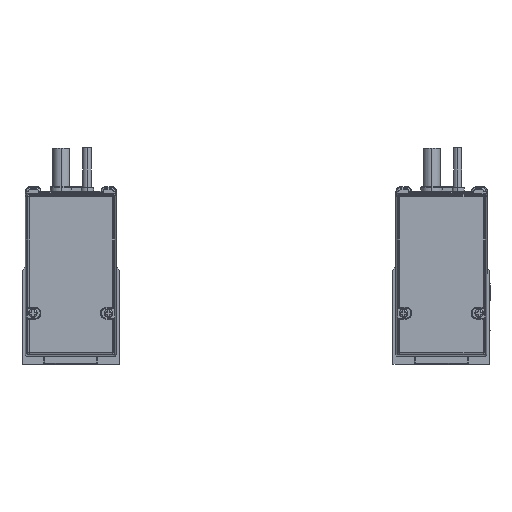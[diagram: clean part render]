
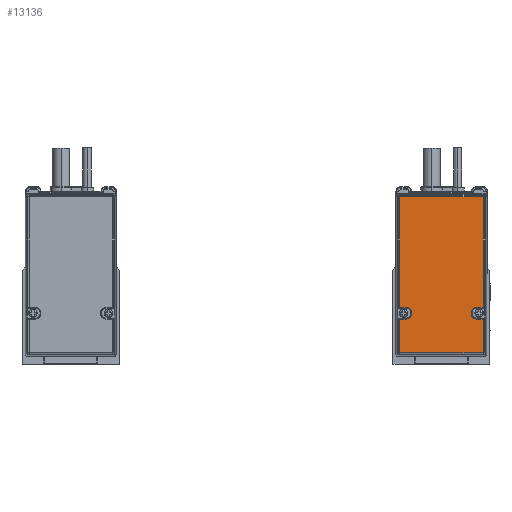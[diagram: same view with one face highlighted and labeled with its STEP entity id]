
A CAD part, left-side view. The second image highlights one B-rep face of the part: STEP entity #13136.
In plain terms, the highlighted planar face has unit normal (-1, 0, 0).
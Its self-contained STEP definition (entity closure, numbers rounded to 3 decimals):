
#13136=ADVANCED_FACE('',(#26065),#26066,.F.);
#26065=FACE_OUTER_BOUND('',#48995,.T.);
#26066=PLANE('',#48996);
#48995=EDGE_LOOP('',(#86801,#86802,#86803,#86804,#86805,#86806,#86807,#86808,#86809,#86810,#86811,#86812,#86813,#86814,#86815,#86816));
#48996=AXIS2_PLACEMENT_3D('',#86817,#86818,#86819);
#86801=ORIENTED_EDGE('',*,*,#100920,.F.);
#86802=ORIENTED_EDGE('',*,*,#90613,.F.);
#86803=ORIENTED_EDGE('',*,*,#99886,.F.);
#86804=ORIENTED_EDGE('',*,*,#103408,.F.);
#86805=ORIENTED_EDGE('',*,*,#95140,.F.);
#86806=ORIENTED_EDGE('',*,*,#95081,.F.);
#86807=ORIENTED_EDGE('',*,*,#103409,.F.);
#86808=ORIENTED_EDGE('',*,*,#101356,.F.);
#86809=ORIENTED_EDGE('',*,*,#102907,.F.);
#86810=ORIENTED_EDGE('',*,*,#101424,.F.);
#86811=ORIENTED_EDGE('',*,*,#102277,.F.);
#86812=ORIENTED_EDGE('',*,*,#103410,.F.);
#86813=ORIENTED_EDGE('',*,*,#97551,.F.);
#86814=ORIENTED_EDGE('',*,*,#91702,.F.);
#86815=ORIENTED_EDGE('',*,*,#89830,.F.);
#86816=ORIENTED_EDGE('',*,*,#100263,.F.);
#86817=CARTESIAN_POINT('',(1511.3,11.59,536.038));
#86818=DIRECTION('',(1.0,0.0,0.0));
#86819=DIRECTION('',(0.0,1.0,0.));
#89830=EDGE_CURVE('',#106474,#106476,#106477,.T.);
#90613=EDGE_CURVE('',#107855,#107857,#107858,.T.);
#91702=EDGE_CURVE('',#106476,#109691,#109692,.T.);
#95081=EDGE_CURVE('',#115128,#115130,#115131,.T.);
#95140=EDGE_CURVE('',#115130,#108792,#115217,.T.);
#97551=EDGE_CURVE('',#109691,#104744,#118787,.T.);
#99886=EDGE_CURVE('',#121873,#107855,#121875,.T.);
#100263=EDGE_CURVE('',#122335,#106474,#122337,.T.);
#100920=EDGE_CURVE('',#107857,#122335,#123135,.T.);
#101356=EDGE_CURVE('',#123657,#123659,#123660,.T.);
#101424=EDGE_CURVE('',#121503,#113927,#123734,.T.);
#102277=EDGE_CURVE('',#104021,#121503,#124677,.T.);
#102907=EDGE_CURVE('',#113927,#123657,#125337,.T.);
#103408=EDGE_CURVE('',#108792,#121873,#125848,.T.);
#103409=EDGE_CURVE('',#123659,#115128,#125849,.T.);
#103410=EDGE_CURVE('',#104744,#104021,#125850,.T.);
#104021=VERTEX_POINT('',#126580);
#104744=VERTEX_POINT('',#127620);
#106474=VERTEX_POINT('',#130286);
#106476=VERTEX_POINT('',#130288);
#106477=LINE('',#130289,#130290);
#107855=VERTEX_POINT('',#132213);
#107857=VERTEX_POINT('',#132215);
#107858=LINE('',#132216,#132217);
#108792=VERTEX_POINT('',#133508);
#109691=VERTEX_POINT('',#134672);
#109692=CIRCLE('',#134673,2.5);
#113927=VERTEX_POINT('',#140836);
#115128=VERTEX_POINT('',#142531);
#115130=VERTEX_POINT('',#142533);
#115131=CIRCLE('',#142534,2.5);
#115217=LINE('',#142644,#142645);
#118787=LINE('',#147941,#147942);
#121503=VERTEX_POINT('',#152012);
#121873=VERTEX_POINT('',#152537);
#121875=LINE('',#152539,#152540);
#122335=VERTEX_POINT('',#153153);
#122337=CIRCLE('',#153155,2.5);
#123135=LINE('',#154303,#154304);
#123657=VERTEX_POINT('',#155040);
#123659=VERTEX_POINT('',#155042);
#123660=CIRCLE('',#155043,2.5);
#123734=LINE('',#155146,#155147);
#124677=LINE('',#156500,#156501);
#125337=LINE('',#157326,#157327);
#125848=LINE('',#157996,#157997);
#125849=LINE('',#157998,#157999);
#125850=LINE('',#158000,#158001);
#126580=CARTESIAN_POINT('',(1511.3,30.9,570.666));
#127620=CARTESIAN_POINT('',(1511.3,30.9,519.492));
#130286=CARTESIAN_POINT('',(1511.3,25.39,516.592));
#130288=CARTESIAN_POINT('',(1511.3,25.39,516.992));
#130289=CARTESIAN_POINT('',(1511.3,25.39,526.415));
#130290=VECTOR('',#160429,1.0);
#132213=CARTESIAN_POINT('',(1511.3,30.9,498.482));
#132215=CARTESIAN_POINT('',(1511.3,30.9,514.092));
#132216=CARTESIAN_POINT('',(1511.3,30.9,538.216));
#132217=VECTOR('',#161550,1.0);
#133508=CARTESIAN_POINT('',(1511.3,-7.72,514.092));
#134672=CARTESIAN_POINT('',(1511.3,27.89,519.492));
#134673=AXIS2_PLACEMENT_3D('',#163120,#163121,#163122);
#140836=CARTESIAN_POINT('',(1511.3,-7.72,519.492));
#142531=CARTESIAN_POINT('',(1511.3,-2.21,516.592));
#142533=CARTESIAN_POINT('',(1511.3,-4.71,514.092));
#142534=AXIS2_PLACEMENT_3D('',#167557,#167558,#167559);
#142644=CARTESIAN_POINT('',(1511.3,2.84,514.092));
#142645=VECTOR('',#167641,1.0);
#147941=CARTESIAN_POINT('',(1511.3,20.34,519.492));
#147942=VECTOR('',#170929,1.0);
#152012=CARTESIAN_POINT('',(1511.3,-7.72,570.666));
#152537=CARTESIAN_POINT('',(1511.3,-7.72,498.482));
#152539=CARTESIAN_POINT('',(1511.3,11.59,498.482));
#152540=VECTOR('',#173719,1.0);
#153153=CARTESIAN_POINT('',(1511.3,27.89,514.092));
#153155=AXIS2_PLACEMENT_3D('',#174209,#174210,#174211);
#154303=CARTESIAN_POINT('',(1511.3,20.34,514.092));
#154304=VECTOR('',#174994,1.0);
#155040=CARTESIAN_POINT('',(1511.3,-4.71,519.492));
#155042=CARTESIAN_POINT('',(1511.3,-2.21,516.992));
#155043=AXIS2_PLACEMENT_3D('',#175443,#175444,#175445);
#155146=CARTESIAN_POINT('',(1511.3,-7.72,536.038));
#155147=VECTOR('',#175507,1.0);
#156500=CARTESIAN_POINT('',(1511.3,10.34,570.666));
#156501=VECTOR('',#176339,1.0);
#157326=CARTESIAN_POINT('',(1511.3,2.84,519.492));
#157327=VECTOR('',#176807,1.0);
#157996=CARTESIAN_POINT('',(1511.3,-7.72,536.038));
#157997=VECTOR('',#177062,1.0);
#157998=CARTESIAN_POINT('',(1511.3,-2.21,526.415));
#157999=VECTOR('',#177063,1.0);
#158000=CARTESIAN_POINT('',(1511.3,30.9,538.216));
#158001=VECTOR('',#177064,1.0);
#160429=DIRECTION('',(0.0,0.0,1.0));
#161550=DIRECTION('',(0.0,0.,1.0));
#163120=CARTESIAN_POINT('',(1511.3,27.89,516.992));
#163121=DIRECTION('',(-1.0,0.0,0.0));
#163122=DIRECTION('',(0.0,-0.707,0.707));
#167557=CARTESIAN_POINT('',(1511.3,-4.71,516.592));
#167558=DIRECTION('',(-1.0,0.0,0.0));
#167559=DIRECTION('',(0.0,0.707,-0.707));
#167641=DIRECTION('',(0.0,-1.0,0.0));
#170929=DIRECTION('',(0.0,1.0,0.0));
#173719=DIRECTION('',(0.0,1.0,0.0));
#174209=CARTESIAN_POINT('',(1511.3,27.89,516.592));
#174210=DIRECTION('',(-1.0,0.0,0.0));
#174211=DIRECTION('',(0.0,-0.707,-0.707));
#174994=DIRECTION('',(0.0,-1.0,0.0));
#175443=CARTESIAN_POINT('',(1511.3,-4.71,516.992));
#175444=DIRECTION('',(-1.0,0.0,0.0));
#175445=DIRECTION('',(0.0,0.707,0.707));
#175507=DIRECTION('',(0.0,0.,-1.0));
#176339=DIRECTION('',(0.0,-1.0,0.0));
#176807=DIRECTION('',(0.0,1.0,0.0));
#177062=DIRECTION('',(0.0,0.,-1.0));
#177063=DIRECTION('',(0.0,0.0,-1.0));
#177064=DIRECTION('',(0.0,0.,1.0));
